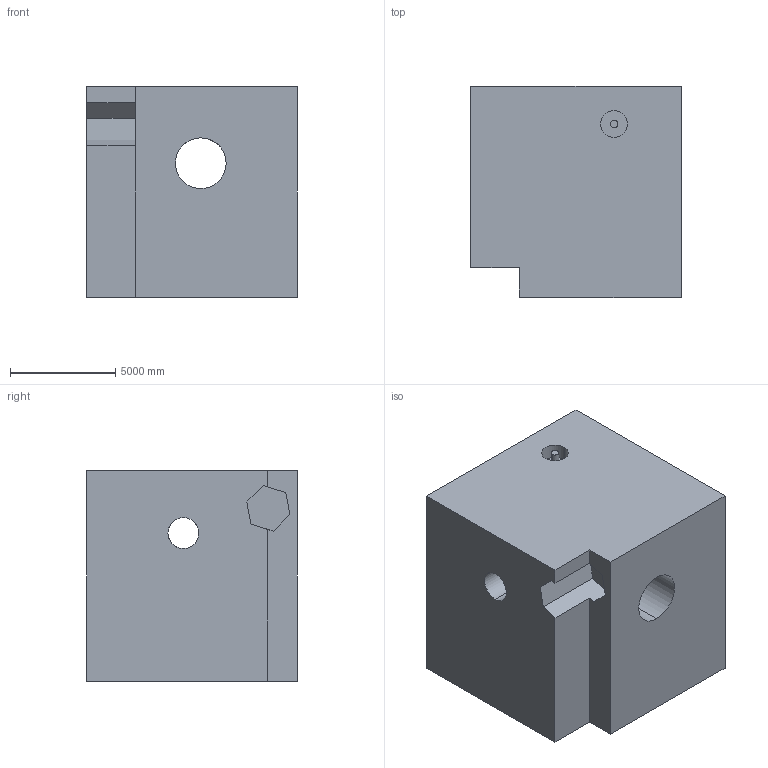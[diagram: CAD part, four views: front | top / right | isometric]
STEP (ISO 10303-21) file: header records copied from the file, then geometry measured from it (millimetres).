
FILE_DESCRIPTION (( 'STEP AP203' ), '1' );
FILE_NAME ('162.STEP', '2022-09-05T15:50:37', ( 'user' ), ( '' ), 'SwSTEP 2.0', 'SolidWorks 2021', '' );
FILE_SCHEMA (( 'CONFIG_CONTROL_DESIGN' ));
Length unit declared in the file: centimetre
Products named in the file (1): 162
Bounding box: 10000 x 10000 x 10000 mm (x, y, z)
Volume: 897264500100.7 mm3; surface area: 716904677.4 mm2
Topology: 1 solids, 1 shells, 31 faces, 87 edges, 58 vertices
Faces by surface type: plane 21, cylinder 10
Entity records: 1530 total; most frequent: CARTESIAN_POINT 625, ORIENTED_EDGE 174, DIRECTION 167, EDGE_CURVE 87, VECTOR 63, LINE 63, VERTEX_POINT 58, AXIS2_PLACEMENT_3D 52
